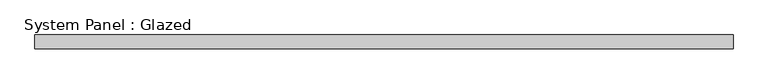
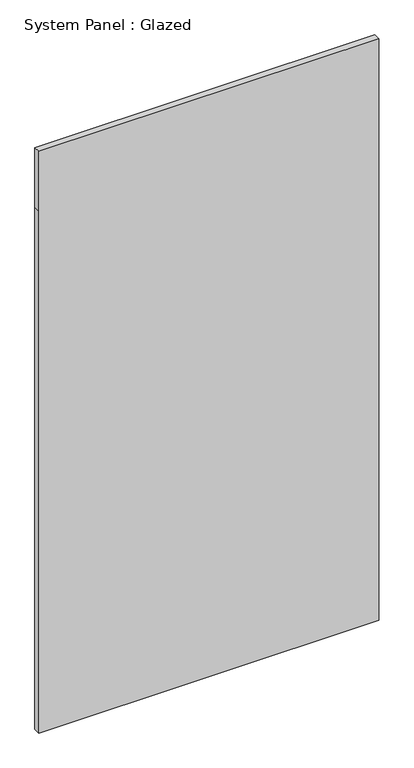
"""IFC4 building model written with IfcOpenShell, lengths in millimetres: plate geometry, System Panel : Glazed."""

import ifcopenshell
import ifcopenshell.guid

model = None  # the IFC model being written
_history = None  # IfcOwnerHistory: only IFC2X3 demands one
_inside = {}  # id of a spatial element -> (the spatial element, [elements in it])
_under = {}  # id of a project, library or spatial element -> (it, [spatial elements below it])
_declared = {}  # id of a project -> (the project, [libraries it declares])
_typed = {}  # id of a type object -> (the type object, [elements of that type])
_made_of = {}  # id of a material, layer set ... -> (it, [elements and type objects made of it])


def new_model(schema):
    """Start an empty IFC model of exactly this schema.

    Asked for "IFC4X3", IfcOpenShell would pick the latest addendum, in which some entities
    have other attributes; the version numbers below select the first issue.
    IFC2X3 requires an IfcOwnerHistory on every rooted entity: one is made here for all.
    """
    global model, _history
    if schema == "IFC4X3":
        model = ifcopenshell.file(schema_version=(4, 3, 0, 0))
    else:
        model = ifcopenshell.file(schema=schema)
    _inside.clear()
    _under.clear()
    _declared.clear()
    _typed.clear()
    _made_of.clear()
    _history = None
    if model.schema == "IFC2X3":
        org = make("IfcOrganization", Name="unknown")
        user = make(
            "IfcPersonAndOrganization",
            ThePerson=make("IfcPerson", FamilyName="unknown"),
            TheOrganization=org,
        )
        app = make(
            "IfcApplication",
            ApplicationDeveloper=org,
            Version="unknown",
            ApplicationFullName="unknown",
            ApplicationIdentifier="unknown",
        )
        _history = make(
            "IfcOwnerHistory",
            OwningUser=user,
            OwningApplication=app,
            ChangeAction="ADDED",
            CreationDate=0,
        )
    return model


def make(cls, **values):
    """One entity of the class cls with the attributes given. An attribute that is None is left unset."""
    return model.create_entity(
        cls, **{name: value for name, value in values.items() if value is not None}
    )


def rooted(cls, **values):
    """An entity with a GlobalId (a new one), such as an element, a storey or a relation."""
    return make(cls, GlobalId=ifcopenshell.guid.new(), OwnerHistory=_history, **values)


def si_unit(unit_type, name, prefix=None):
    """IfcSIUnit, for example si_unit("LENGTHUNIT", "METRE", prefix="MILLI")."""
    return make("IfcSIUnit", UnitType=unit_type, Prefix=prefix, Name=name)


def assignment(units):
    """IfcUnitAssignment: the units of a project."""
    return None if units is None else make("IfcUnitAssignment", Units=units)


def point(xyz):
    """IfcCartesianPoint."""
    return None if xyz is None else make("IfcCartesianPoint", Coordinates=xyz)


def direction(xyz):
    """IfcDirection."""
    return None if xyz is None else make("IfcDirection", DirectionRatios=xyz)


def frame(location, z_axis=None, x_axis=None):
    """IfcAxis2Placement3D, a coordinate frame: its origin and axes. An axis left out is left unset."""
    return make(
        "IfcAxis2Placement3D",
        Location=point(location),
        Axis=direction(z_axis),
        RefDirection=direction(x_axis),
    )


def origin():
    """The frame at (0, 0, 0) with its axes left unset."""
    return frame((0.0, 0.0, 0.0))


def place(relative_to, where):
    """IfcLocalPlacement: puts the frame where relative to a parent placement (None: the world)."""
    return make(
        "IfcLocalPlacement", PlacementRelTo=relative_to, RelativePlacement=where
    )


def context(
    kind, dimensions, precision=None, world=None, true_north=None, identifier=None
):
    """IfcGeometricRepresentationContext, for example the 3D "Model" context."""
    return make(
        "IfcGeometricRepresentationContext",
        ContextIdentifier=identifier,
        ContextType=kind,
        CoordinateSpaceDimension=dimensions,
        Precision=precision,
        WorldCoordinateSystem=world,
        TrueNorth=true_north,
    )


def project(units=None, contexts=None):
    """IfcProject with its units and contexts."""
    return rooted(
        "IfcProject",
        Name="project",
        RepresentationContexts=contexts,
        UnitsInContext=assignment(units),
    )


def spatial(cls, under=None, at=None, **own):
    """A site, building, storey or space (cls), placed at a placement, below another one or the project."""
    s = rooted(cls, ObjectPlacement=at, **own)
    if under is not None:
        _under.setdefault(under.id(), (under, []))[1].append(s)
    return s


def polyline(points):
    """IfcPolyline through the points."""
    return make("IfcPolyline", Points=[point(p) for p in points])


def outline(outer, holes=None, kind="AREA"):
    """IfcArbitraryClosedProfileDef: a profile drawn as a closed curve; with holes, ...WithVoids."""
    if holes is None:
        return make("IfcArbitraryClosedProfileDef", ProfileType=kind, OuterCurve=outer)
    return make(
        "IfcArbitraryProfileDefWithVoids",
        ProfileType=kind,
        OuterCurve=outer,
        InnerCurves=holes,
    )


def extrude(swept, where, along, depth):
    """IfcExtrudedAreaSolid: the profile swept, set in the frame where, extruded along a direction by depth."""
    return make(
        "IfcExtrudedAreaSolid",
        SweptArea=swept,
        Position=where,
        ExtrudedDirection=direction(along),
        Depth=depth,
    )


def shape(context_of_items, identifier, shape_type, items):
    """IfcShapeRepresentation: the items that make up one representation, for example the "Body"."""
    return make(
        "IfcShapeRepresentation",
        ContextOfItems=context_of_items,
        RepresentationIdentifier=identifier,
        RepresentationType=shape_type,
        Items=items,
    )


def source(mapping_origin, context_of_items, identifier, shape_type, items):
    """IfcRepresentationMap: a shape defined once, which mapped items show again and again."""
    return make(
        "IfcRepresentationMap",
        MappingOrigin=mapping_origin,
        MappedRepresentation=shape(context_of_items, identifier, shape_type, items),
    )


def transform(
    local_origin,
    x_axis=None,
    y_axis=None,
    z_axis=None,
    scale=None,
    scale2=None,
    scale3=None,
    uniform=True,
):
    """IfcCartesianTransformationOperator3D, or its non-uniform kind. x_axis, y_axis, z_axis: its Axis1, 2, 3."""
    if uniform:
        return make(
            "IfcCartesianTransformationOperator3D",
            Axis1=direction(x_axis),
            Axis2=direction(y_axis),
            LocalOrigin=point(local_origin),
            Scale=scale,
            Axis3=direction(z_axis),
        )
    return make(
        "IfcCartesianTransformationOperator3DnonUniform",
        Axis1=direction(x_axis),
        Axis2=direction(y_axis),
        LocalOrigin=point(local_origin),
        Scale=scale,
        Axis3=direction(z_axis),
        Scale2=scale2,
        Scale3=scale3,
    )


def mapped(mapping_source, mapping_target):
    """IfcMappedItem: shows the shape of a source again, moved by a transform."""
    return make(
        "IfcMappedItem", MappingSource=mapping_source, MappingTarget=mapping_target
    )


def made_of(thing, what):
    """Note that an element or type object is made of a material, layer set ...; save() writes the relation."""
    if what is not None:
        _made_of.setdefault(what.id(), (what, []))[1].append(thing)
    return thing


def element(
    cls,
    number,
    at=None,
    inside=None,
    cuts=None,
    type_object=None,
    material=None,
    context=None,
    identifier="Body",
    shape_type=None,
    held_by="IfcProductDefinitionShape",
    body=None,
    shapes=None,
    **own,
):
    """One element of the class cls, such as IfcWall. Its Tag is "e" and its number.

    at: its placement. inside: the storey or other place that contains it. cuts: it is an
    opening in that element (IfcRelVoidsElement). A single representation is given by context,
    identifier, shape_type and body (its items); several are given by shapes. held_by: the class
    of the entity that holds the representations. save() writes the other relations.
    """
    e = rooted(cls, Tag="e%d" % number, ObjectPlacement=at, **own)
    if body is not None:
        shapes = [shape(context, identifier, shape_type, body)]
    if shapes is not None:
        e.Representation = make(held_by, Representations=shapes)
    if inside is not None:
        _inside.setdefault(inside.id(), (inside, []))[1].append(e)
    if cuts is not None:
        rooted(
            "IfcRelVoidsElement", RelatingBuildingElement=cuts, RelatedOpeningElement=e
        )
    if type_object is not None:
        _typed.setdefault(type_object.id(), (type_object, []))[1].append(e)
    return made_of(e, material)


def aggregate(whole, parts):
    """IfcRelAggregates: a whole, such as a stair, and the parts it consists of."""
    return rooted("IfcRelAggregates", RelatingObject=whole, RelatedObjects=parts)


def save(model, path):
    """Write the relations noted so far, then the file.

    IfcRelAggregates (storeys below a building ...), IfcRelContainedInSpatialStructure (elements
    in a storey), IfcRelDefinesByType, IfcRelAssociatesMaterial and IfcRelDeclares: one each for
    every whole, place, type object, material and project.
    """
    for whole, parts in _under.values():
        aggregate(whole, parts)
    for where, things in _inside.values():
        rooted(
            "IfcRelContainedInSpatialStructure",
            RelatedElements=things,
            RelatingStructure=where,
        )
    for kind, things in _typed.values():
        rooted("IfcRelDefinesByType", RelatedObjects=things, RelatingType=kind)
    for what, things in _made_of.values():
        rooted("IfcRelAssociatesMaterial", RelatedObjects=things, RelatingMaterial=what)
    for by, libraries in _declared.values():
        rooted("IfcRelDeclares", RelatingContext=by, RelatedDefinitions=libraries)
    model.write(path)


def system_panel_glazed_8597e1a2(model_context):
    return source(origin(), model_context, "Body", "SweptSolid", [
        extrude(outline(polyline([(0.0, -647.7), (0.0, 647.7), (2101.85, 647.7), (2343.15, 647.7), (2343.15, -647.7), (2101.85, -647.7), (0.0, -647.7)])), frame((0.0, -44.45, 0.0), z_axis=(0.0, 1.0, 0.0), x_axis=(0.0, 0.0, 1.0)), (0.0, 0.0, 1.0), 25.4),
    ])


if __name__ == "__main__":
    model = new_model("IFC4")
    model_context = context("Model", 3, world=origin())
    ifc_project = project(units=[si_unit("LENGTHUNIT", "METRE", prefix="MILLI")], contexts=[model_context])
    site = spatial("IfcSite", under=ifc_project)
    building = spatial("IfcBuilding", under=site)
    placement = place(None, origin())
    system_panel_glazed_shape = system_panel_glazed_8597e1a2(model_context)
    element("IfcPlate", 1, ObjectType="System Panel : Glazed", at=placement, inside=building, context=model_context, shape_type="MappedRepresentation", body=[
        mapped(system_panel_glazed_shape, transform((0.0, 0.0, 0.0), x_axis=(1.0, 0.0, 0.0), y_axis=(0.0, 1.0, 0.0), z_axis=(0.0, 0.0, 1.0))),
    ])
    save(model, "model.ifc")
